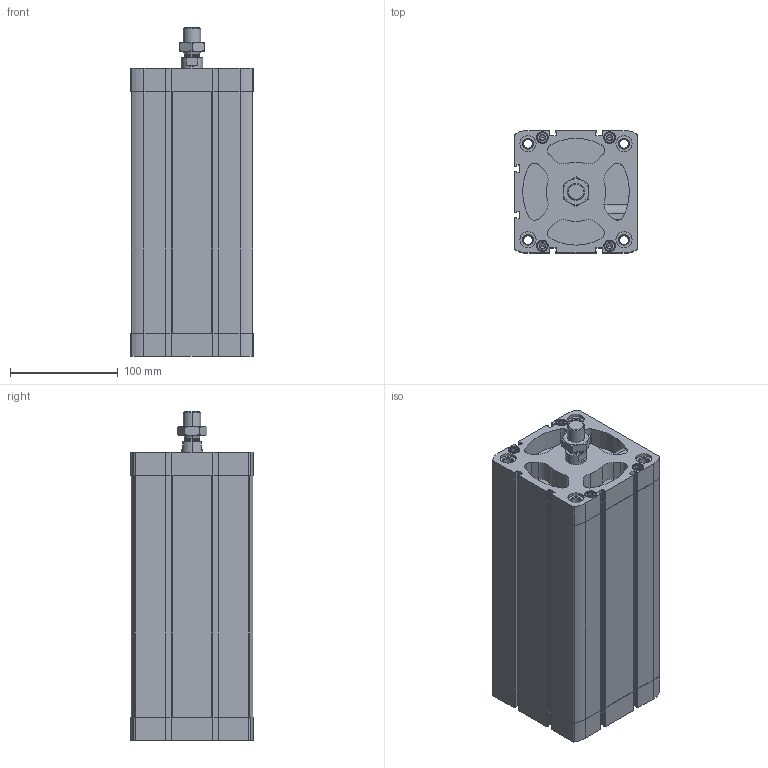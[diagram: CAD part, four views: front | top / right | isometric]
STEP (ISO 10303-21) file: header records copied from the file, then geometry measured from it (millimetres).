
FILE_DESCRIPTION (( 'STEP AP203' ), '1' );
FILE_NAME ('CCN100-200M.STEP', '2020-06-05T18:08:59', ( '' ), ( '' ), 'SwSTEP 2.0', 'SolidWorks 2019', '' );
FILE_SCHEMA (( 'CONFIG_CONTROL_DESIGN' ));
Length unit declared in the file: millimetre
Products named in the file (1): CCN100-200M
Bounding box: 113.5 x 113.5 x 304.8 mm (x, y, z)
Volume: 1640237.9 mm3; surface area: 343135.2 mm2
Topology: 3 solids, 3 shells, 648 faces, 1673 edges, 1068 vertices
Faces by surface type: plane 292, cylinder 272, cone 80, torus 4
Entity records: 21246 total; most frequent: CARTESIAN_POINT 4984, DIRECTION 3541, ORIENTED_EDGE 3314, EDGE_CURVE 1657, AXIS2_PLACEMENT_3D 1319, VERTEX_POINT 1068, VECTOR 903, LINE 903
